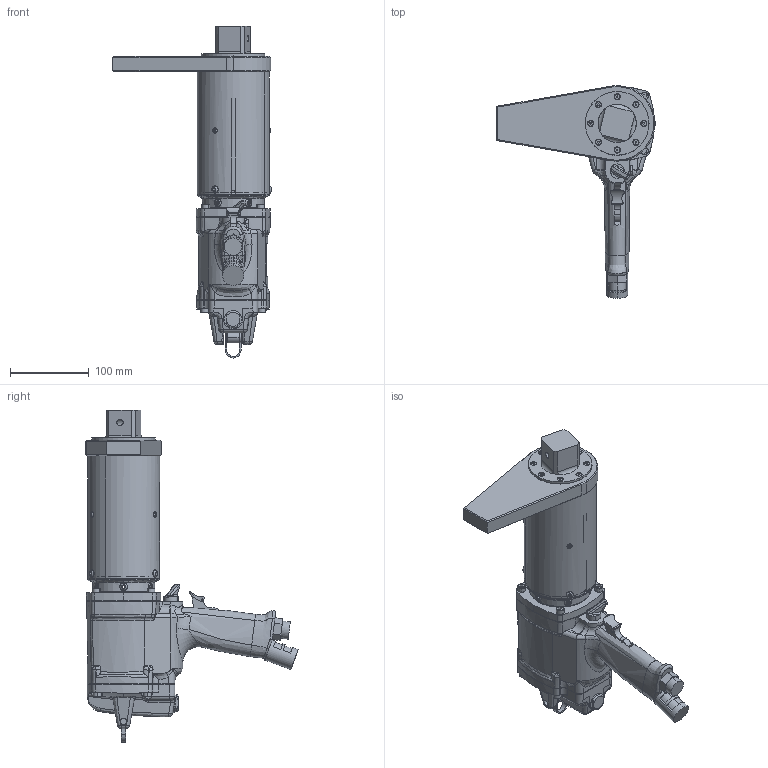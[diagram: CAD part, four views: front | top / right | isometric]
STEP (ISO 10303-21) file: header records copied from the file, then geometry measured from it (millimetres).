
FILE_DESCRIPTION (( 'STEP AP214' ), '1' );
FILE_NAME ('AAP1B885100A.STEP', '2014-12-06T00:02:59', ( 'AIMCO' ), ( '' ), 'SwSTEP 2.0', 'SolidWorks 2014', '' );
FILE_SCHEMA (( 'AUTOMOTIVE_DESIGN' ));
Length unit declared in the file: inch
Products named in the file (1): AAP1B885100A
Bounding box: 200.56 x 268.76 x 420.41 mm (x, y, z)
Surface area: 204387.9 mm2 (no closed solid volume)
Topology: 0 solids, 44 shells, 767 faces, 2483 edges, 1736 vertices
Faces by surface type: plane 287, cylinder 223, bspline 171, torus 50, cone 36
Entity records: 145319 total; most frequent: CARTESIAN_POINT 115433, ORIENTED_EDGE 4202, DIRECTION 3556, EDGE_CURVE 2473, VERTEX_POINT 1736, AXIS2_PLACEMENT_3D 1296, LINE 964, VECTOR 964
